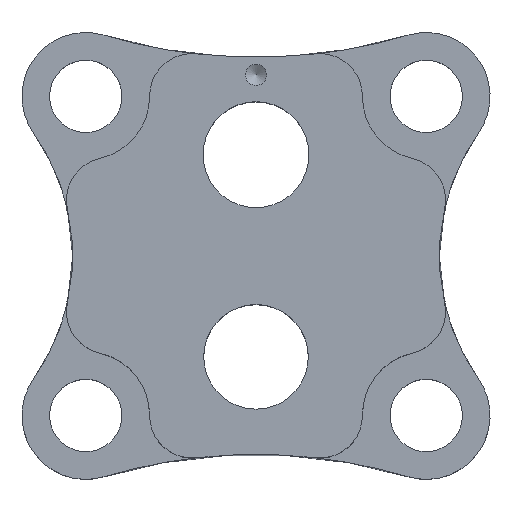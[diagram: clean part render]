
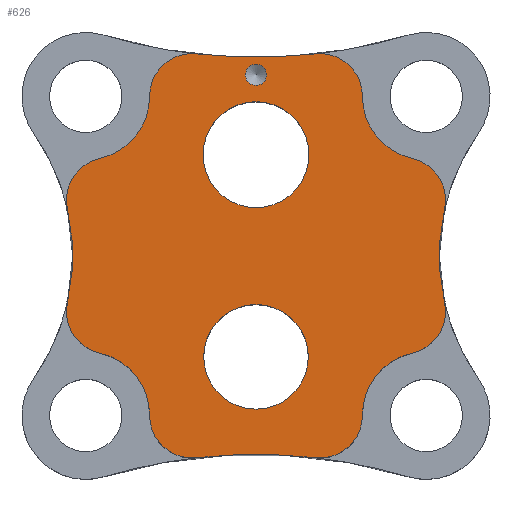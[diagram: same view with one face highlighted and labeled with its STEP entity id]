
A CAD part, top view. The second image highlights one B-rep face of the part: STEP entity #626.
In plain terms, the highlighted planar face has unit normal (0, 0, 1).
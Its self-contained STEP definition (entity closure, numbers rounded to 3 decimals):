
#16=FACE_BOUND('',#109,.T.);
#17=FACE_BOUND('',#110,.T.);
#18=FACE_BOUND('',#111,.T.);
#29=PLANE('',#706);
#73=FACE_OUTER_BOUND('',#108,.T.);
#108=EDGE_LOOP('',(#475,#476,#477,#478,#479,#480,#481,#482,#483,#484,#485,
#486,#487,#488,#489,#490));
#109=EDGE_LOOP('',(#491));
#110=EDGE_LOOP('',(#492));
#111=EDGE_LOOP('',(#493));
#207=CIRCLE('',#674,0.5);
#208=CIRCLE('',#676,2.489);
#210=CIRCLE('',#679,2.459);
#221=CIRCLE('',#695,2.);
#223=CIRCLE('',#698,3.);
#225=CIRCLE('',#701,2.);
#229=CIRCLE('',#707,10.);
#230=CIRCLE('',#708,2.);
#231=CIRCLE('',#709,3.);
#232=CIRCLE('',#710,2.);
#233=CIRCLE('',#711,25.);
#234=CIRCLE('',#712,2.);
#235=CIRCLE('',#713,3.);
#236=CIRCLE('',#714,2.);
#237=CIRCLE('',#715,10.);
#238=CIRCLE('',#716,2.);
#239=CIRCLE('',#717,3.);
#240=CIRCLE('',#718,2.);
#241=CIRCLE('',#719,25.);
#270=VERTEX_POINT('',#1000);
#271=VERTEX_POINT('',#1004);
#273=VERTEX_POINT('',#1010);
#285=VERTEX_POINT('',#1043);
#286=VERTEX_POINT('',#1045);
#288=VERTEX_POINT('',#1051);
#290=VERTEX_POINT('',#1057);
#293=VERTEX_POINT('',#1067);
#294=VERTEX_POINT('',#1069);
#295=VERTEX_POINT('',#1071);
#296=VERTEX_POINT('',#1073);
#297=VERTEX_POINT('',#1075);
#298=VERTEX_POINT('',#1077);
#299=VERTEX_POINT('',#1079);
#300=VERTEX_POINT('',#1081);
#301=VERTEX_POINT('',#1083);
#302=VERTEX_POINT('',#1085);
#303=VERTEX_POINT('',#1087);
#304=VERTEX_POINT('',#1089);
#333=EDGE_CURVE('',#270,#270,#207,.T.);
#335=EDGE_CURVE('',#271,#271,#208,.T.);
#338=EDGE_CURVE('',#273,#273,#210,.T.);
#355=EDGE_CURVE('',#286,#285,#221,.T.);
#358=EDGE_CURVE('',#288,#286,#223,.T.);
#361=EDGE_CURVE('',#290,#288,#225,.T.);
#366=EDGE_CURVE('',#293,#285,#229,.T.);
#367=EDGE_CURVE('',#293,#294,#230,.T.);
#368=EDGE_CURVE('',#294,#295,#231,.T.);
#369=EDGE_CURVE('',#295,#296,#232,.T.);
#370=EDGE_CURVE('',#296,#297,#233,.T.);
#371=EDGE_CURVE('',#297,#298,#234,.T.);
#372=EDGE_CURVE('',#298,#299,#235,.T.);
#373=EDGE_CURVE('',#299,#300,#236,.T.);
#374=EDGE_CURVE('',#301,#300,#237,.T.);
#375=EDGE_CURVE('',#301,#302,#238,.T.);
#376=EDGE_CURVE('',#302,#303,#239,.T.);
#377=EDGE_CURVE('',#303,#304,#240,.T.);
#378=EDGE_CURVE('',#304,#290,#241,.T.);
#475=ORIENTED_EDGE('',*,*,#361,.T.);
#476=ORIENTED_EDGE('',*,*,#358,.T.);
#477=ORIENTED_EDGE('',*,*,#355,.T.);
#478=ORIENTED_EDGE('',*,*,#366,.F.);
#479=ORIENTED_EDGE('',*,*,#367,.T.);
#480=ORIENTED_EDGE('',*,*,#368,.T.);
#481=ORIENTED_EDGE('',*,*,#369,.T.);
#482=ORIENTED_EDGE('',*,*,#370,.T.);
#483=ORIENTED_EDGE('',*,*,#371,.T.);
#484=ORIENTED_EDGE('',*,*,#372,.T.);
#485=ORIENTED_EDGE('',*,*,#373,.T.);
#486=ORIENTED_EDGE('',*,*,#374,.F.);
#487=ORIENTED_EDGE('',*,*,#375,.T.);
#488=ORIENTED_EDGE('',*,*,#376,.T.);
#489=ORIENTED_EDGE('',*,*,#377,.T.);
#490=ORIENTED_EDGE('',*,*,#378,.T.);
#491=ORIENTED_EDGE('',*,*,#333,.T.);
#492=ORIENTED_EDGE('',*,*,#335,.T.);
#493=ORIENTED_EDGE('',*,*,#338,.T.);
#626=ADVANCED_FACE('',(#73,#16,#17,#18),#29,.T.);
#674=AXIS2_PLACEMENT_3D('',#1001,#776,#777);
#676=AXIS2_PLACEMENT_3D('',#1005,#781,#782);
#679=AXIS2_PLACEMENT_3D('',#1011,#788,#789);
#695=AXIS2_PLACEMENT_3D('',#1046,#826,#827);
#698=AXIS2_PLACEMENT_3D('',#1052,#833,#834);
#701=AXIS2_PLACEMENT_3D('',#1058,#840,#841);
#706=AXIS2_PLACEMENT_3D('',#1066,#851,#852);
#707=AXIS2_PLACEMENT_3D('',#1068,#853,#854);
#708=AXIS2_PLACEMENT_3D('',#1070,#855,#856);
#709=AXIS2_PLACEMENT_3D('',#1072,#857,#858);
#710=AXIS2_PLACEMENT_3D('',#1074,#859,#860);
#711=AXIS2_PLACEMENT_3D('',#1076,#861,#862);
#712=AXIS2_PLACEMENT_3D('',#1078,#863,#864);
#713=AXIS2_PLACEMENT_3D('',#1080,#865,#866);
#714=AXIS2_PLACEMENT_3D('',#1082,#867,#868);
#715=AXIS2_PLACEMENT_3D('',#1084,#869,#870);
#716=AXIS2_PLACEMENT_3D('',#1086,#871,#872);
#717=AXIS2_PLACEMENT_3D('',#1088,#873,#874);
#718=AXIS2_PLACEMENT_3D('',#1090,#875,#876);
#719=AXIS2_PLACEMENT_3D('',#1091,#877,#878);
#776=DIRECTION('center_axis',(0.,0.,-1.));
#777=DIRECTION('ref_axis',(1.,0.,0.));
#781=DIRECTION('center_axis',(0.,0.,-1.));
#782=DIRECTION('ref_axis',(1.,0.,0.));
#788=DIRECTION('center_axis',(0.,0.,-1.));
#789=DIRECTION('ref_axis',(1.,0.,0.));
#826=DIRECTION('center_axis',(0.,0.,1.));
#827=DIRECTION('ref_axis',(-0.218,0.976,0.));
#833=DIRECTION('center_axis',(0.,0.,-1.));
#834=DIRECTION('ref_axis',(-0.218,0.976,0.));
#840=DIRECTION('center_axis',(0.,0.,1.));
#841=DIRECTION('ref_axis',(0.111,0.994,0.));
#851=DIRECTION('center_axis',(0.,0.,1.));
#852=DIRECTION('ref_axis',(1.,0.,0.));
#853=DIRECTION('center_axis',(0.,0.,1.));
#854=DIRECTION('ref_axis',(1.,0.,0.));
#855=DIRECTION('center_axis',(0.,0.,1.));
#856=DIRECTION('ref_axis',(-0.218,-0.976,0.));
#857=DIRECTION('center_axis',(0.,0.,-1.));
#858=DIRECTION('ref_axis',(-0.218,-0.976,0.));
#859=DIRECTION('center_axis',(0.,0.,1.));
#860=DIRECTION('ref_axis',(0.111,-0.994,0.));
#861=DIRECTION('center_axis',(0.,0.,-1.));
#862=DIRECTION('ref_axis',(-0.286,0.958,0.));
#863=DIRECTION('center_axis',(0.,0.,1.));
#864=DIRECTION('ref_axis',(-0.111,-0.994,0.));
#865=DIRECTION('center_axis',(0.,0.,-1.));
#866=DIRECTION('ref_axis',(0.218,-0.976,0.));
#867=DIRECTION('center_axis',(0.,0.,1.));
#868=DIRECTION('ref_axis',(0.218,-0.976,0.));
#869=DIRECTION('center_axis',(0.,0.,1.));
#870=DIRECTION('ref_axis',(-1.,0.,0.));
#871=DIRECTION('center_axis',(0.,0.,1.));
#872=DIRECTION('ref_axis',(0.218,0.976,0.));
#873=DIRECTION('center_axis',(0.,0.,-1.));
#874=DIRECTION('ref_axis',(0.218,0.976,0.));
#875=DIRECTION('center_axis',(0.,0.,1.));
#876=DIRECTION('ref_axis',(-0.111,0.994,0.));
#877=DIRECTION('center_axis',(0.,0.,-1.));
#878=DIRECTION('ref_axis',(0.286,-0.958,0.));
#1000=CARTESIAN_POINT('',(-0.5,8.5,8.));
#1001=CARTESIAN_POINT('Origin',(0.,8.5,8.));
#1004=CARTESIAN_POINT('',(-2.489,4.75,8.));
#1005=CARTESIAN_POINT('Origin',(0.,4.75,8.));
#1010=CARTESIAN_POINT('',(-2.459,-4.75,8.));
#1011=CARTESIAN_POINT('Origin',(0.,-4.75,8.));
#1043=CARTESIAN_POINT('',(8.86,-2.184,8.));
#1045=CARTESIAN_POINT('',(7.345,-4.572,8.));
#1046=CARTESIAN_POINT('Origin',(6.908,-2.621,8.));
#1051=CARTESIAN_POINT('',(5.,-7.5,8.));
#1052=CARTESIAN_POINT('Origin',(8.,-7.5,8.));
#1057=CARTESIAN_POINT('',(2.778,-9.488,8.));
#1058=CARTESIAN_POINT('Origin',(3.,-7.5,8.));
#1066=CARTESIAN_POINT('Origin',(-8.077,7.555,8.));
#1067=CARTESIAN_POINT('',(8.86,2.184,8.));
#1068=CARTESIAN_POINT('Origin',(18.618,0.,8.));
#1069=CARTESIAN_POINT('',(7.345,4.572,8.));
#1070=CARTESIAN_POINT('Origin',(6.908,2.621,8.));
#1071=CARTESIAN_POINT('',(5.,7.5,8.));
#1072=CARTESIAN_POINT('Origin',(8.,7.5,8.));
#1073=CARTESIAN_POINT('',(2.778,9.488,8.));
#1074=CARTESIAN_POINT('Origin',(3.,7.5,8.));
#1075=CARTESIAN_POINT('',(-2.778,9.488,8.));
#1076=CARTESIAN_POINT('Origin',(0.,34.333,8.));
#1077=CARTESIAN_POINT('',(-5.,7.5,8.));
#1078=CARTESIAN_POINT('Origin',(-3.,7.5,8.));
#1079=CARTESIAN_POINT('',(-7.345,4.572,8.));
#1080=CARTESIAN_POINT('Origin',(-8.,7.5,8.));
#1081=CARTESIAN_POINT('',(-8.86,2.184,8.));
#1082=CARTESIAN_POINT('Origin',(-6.908,2.621,8.));
#1083=CARTESIAN_POINT('',(-8.86,-2.184,8.));
#1084=CARTESIAN_POINT('Origin',(-18.618,0.,8.));
#1085=CARTESIAN_POINT('',(-7.345,-4.572,8.));
#1086=CARTESIAN_POINT('Origin',(-6.908,-2.621,8.));
#1087=CARTESIAN_POINT('',(-5.,-7.5,8.));
#1088=CARTESIAN_POINT('Origin',(-8.,-7.5,8.));
#1089=CARTESIAN_POINT('',(-2.778,-9.488,8.));
#1090=CARTESIAN_POINT('Origin',(-3.,-7.5,8.));
#1091=CARTESIAN_POINT('Origin',(0.,-34.333,8.));
